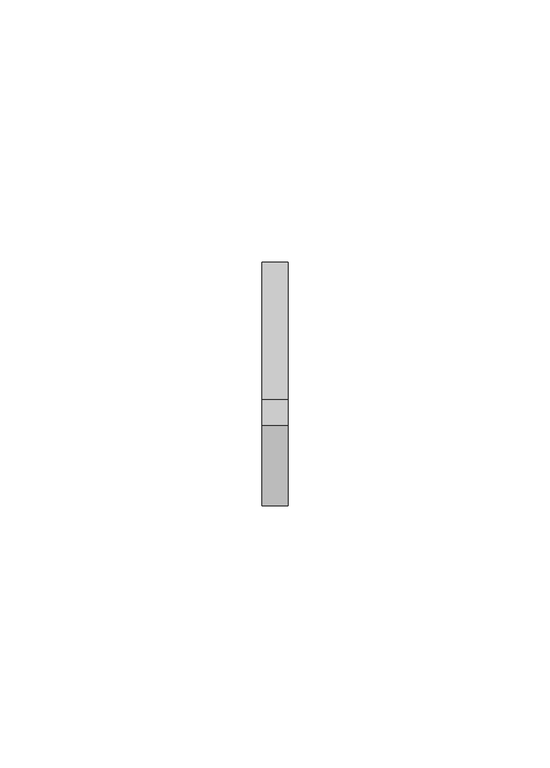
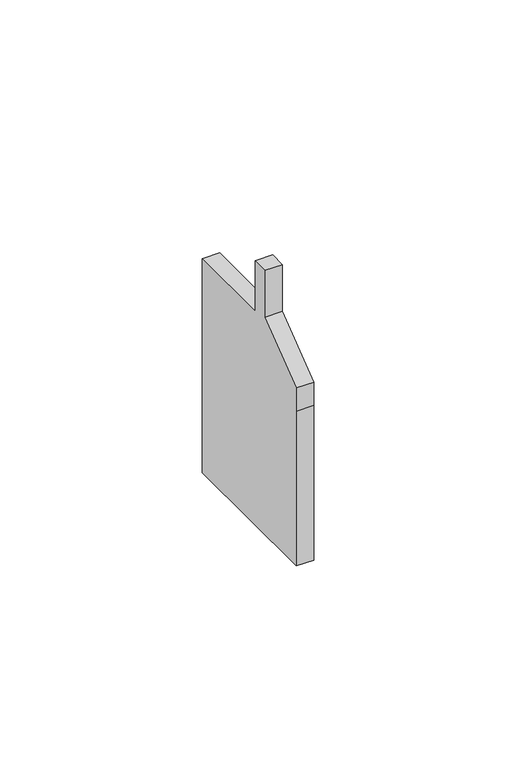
"""IFC4 building model written with IfcOpenShell, lengths in millimetres: proxy geometry, Odbojnik - OPK40 : Odbojnik - OPK40."""

from ifc_helpers import new_model, si_unit, frame, origin, place, context, project, spatial, polyline, outline, extrude, source, transform, mapped, element, save


def generic_models_643b4672(model_context):
    return source(origin(), model_context, "Body", "SweptSolid", [
        extrude(outline(polyline([(-14.1119039, 44.2426389), (-14.1119039, -18.6204176), (-60.6413328, -18.6204176), (-60.6413328, 28.1269759), (-60.6413328, 35.1289259), (-45.2450267, 47.2116614), (-45.2450267, 61.3237844), (-40.4327823, 61.3237844), (-40.4327823, 45.995721), (-14.1119039, 45.995721), (-14.1119039, 44.2426389)])), frame((-2.5, 0.0, 0.0), z_axis=(1.0, 0.0, 0.0), x_axis=(0.0, 1.0, 0.0)), (0.0, 0.0, 1.0), 5.0),
    ])


if __name__ == "__main__":
    model = new_model("IFC4")
    model_context = context("Model", 3, world=origin())
    ifc_project = project(units=[si_unit("LENGTHUNIT", "METRE", prefix="MILLI")], contexts=[model_context])
    site = spatial("IfcSite", under=ifc_project)
    building = spatial("IfcBuilding", under=site)
    placement = place(None, origin())
    generic_models_shape = generic_models_643b4672(model_context)
    element("IfcBuildingElementProxy", 1, Name="Odbojnik - OPK40 : Odbojnik - OPK40", ObjectType="Odbojnik - OPK40 : Odbojnik - OPK40", at=placement, inside=building, context=model_context, shape_type="MappedRepresentation", body=[
        mapped(generic_models_shape, transform((0.0, 0.0, 0.0), x_axis=(1.0, 0.0, 0.0), y_axis=(0.0, 1.0, 0.0), z_axis=(0.0, 0.0, 1.0))),
    ])
    save(model, "model.ifc")
